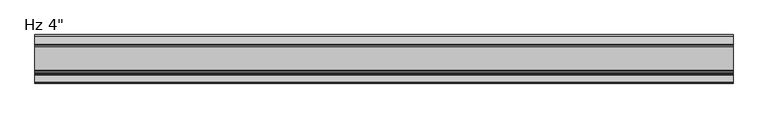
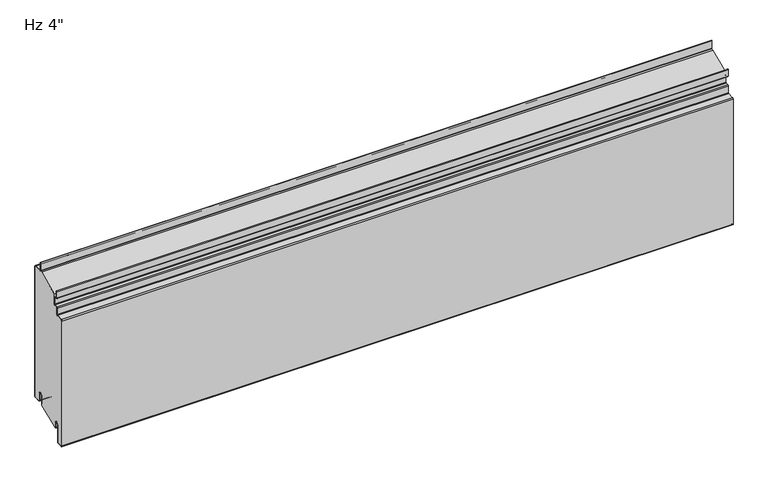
"""IFC4 building model written with IfcOpenShell, lengths in millimetres: plate geometry."""

from ifc_helpers import new_model, si_unit, point, frame, frame_2d, origin, place, context, project, spatial, polyline, circle_curve, ellipse_curve, trimmed, segment, composite_curve, outline, extrude, source, transform, mapped, element, save
from ifc_brep_helpers import plane_surface, cylinder_surface, revolved_surface, extruded_surface, advanced_brep


def plate_7649aaa1(model_context):
    return source(origin(), model_context, "Body", "SolidModel", [
        extrude(outline(composite_curve([segment(trimmed(circle_curve(frame_2d((-21.43125, 19.05)), 4.96875), [point((-16.4625, 19.05))], [point((-26.4, 19.05))], True, "CARTESIAN"), True, "CONTINUOUS"), segment(polyline([(-26.4, 19.05), (-26.4, -3.1323422), (-74.6157227, -23.01875), (-76.2, -23.01875), (-76.2, -13.5080174), (-76.99375, -13.5080174), (-76.7875, -11.9205174)]), True, "CONTINUOUS"), segment(trimmed(circle_curve(frame_2d((-81.75625, -11.9205174)), 4.96875), [point((-76.7875, -11.9205174))], [point((-86.725, -11.9205174))], True, "CARTESIAN"), True, "CONTINUOUS"), segment(polyline([(-86.725, -11.9205174), (-86.725, -50.1038221)]), True, "CONTINUOUS"), segment(trimmed(circle_curve(frame_2d((-88.10625, -50.1038221)), 1.38125), [point((-86.725, -50.1038221))], [point((-88.033961, -51.4831791))], False, "CARTESIAN"), True, "CONTINUOUS"), segment(polyline([(-88.033961, -51.4831791), (-99.146461, -52.0655606)]), True, "CONTINUOUS"), segment(trimmed(circle_curve(frame_2d((-99.21875, -50.6862035)), 1.38125), [point((-99.146461, -52.0655606))], [point((-100.6, -50.6862035))], False, "CARTESIAN"), True, "CONTINUOUS"), segment(polyline([(-100.6, -50.6862035), (-100.6, 236.6447607)]), True, "CONTINUOUS"), segment(trimmed(circle_curve(frame_2d((-99.21875, 236.6447607)), 1.38125), [point((-100.6, 236.6447607))], [point((-99.291039, 238.0241177))], False, "CARTESIAN"), True, "CONTINUOUS"), segment(polyline([(-99.291039, 238.0241177), (-85.5895807, 238.7421807)]), True, "CONTINUOUS"), segment(trimmed(circle_curve(frame_2d((-85.725, 241.3261347)), 2.5875), [point((-85.5895807, 238.7421807))], [point((-83.1375, 241.3261347))], True, "CARTESIAN"), True, "CONTINUOUS"), segment(polyline([(-83.1375, 241.3261347), (-83.1375, 255.4824411)]), True, "CONTINUOUS"), segment(trimmed(circle_curve(frame_2d((-81.75625, 255.4824411)), 1.38125), [point((-83.1375, 255.4824411))], [point((-81.828539, 256.8617981))], False, "CARTESIAN"), True, "CONTINUOUS"), segment(polyline([(-81.828539, 256.8617981), (-76.0645807, 257.1638744)]), True, "CONTINUOUS"), segment(trimmed(circle_curve(frame_2d((-76.2, 259.7478283)), 2.5875), [point((-76.0645807, 257.1638744))], [point((-73.6125, 259.7478283))], True, "CARTESIAN"), True, "CONTINUOUS"), segment(polyline([(-73.6125, 259.7478283), (-73.6125, 282.1892934), (-24.9057308, 303.00625), (-2.38125, 303.00625)]), True, "CONTINUOUS"), segment(trimmed(circle_curve(frame_2d((-2.38125, 301.625)), 1.38125), [point((-2.38125, 303.00625))], [point((-1.0, 301.625))], False, "CARTESIAN"), True, "CONTINUOUS"), segment(polyline([(-1.0, 301.625), (-1.0, 3.175)]), True, "CONTINUOUS"), segment(trimmed(circle_curve(frame_2d((-2.38125, 3.175)), 1.38125), [point((-1.0, 3.175))], [point((-2.38125, 1.79375))], False, "CARTESIAN"), True, "CONTINUOUS"), segment(polyline([(-2.38125, 1.79375), (-15.08125, 1.79375)]), True, "CONTINUOUS"), segment(trimmed(circle_curve(frame_2d((-15.08125, 3.175)), 1.38125), [point((-15.08125, 1.79375))], [point((-16.4625, 3.175))], False, "CARTESIAN"), True, "CONTINUOUS"), segment(polyline([(-16.4625, 3.175), (-16.4625, 19.05)]), True, "CONTINUOUS")], self_intersect=False)), frame((-730.0, 0.0, 0.0), z_axis=(1.0, 0.0, 0.0), x_axis=(0.0, 1.0, 0.0)), (0.0, 0.0, 1.0), 1460.0),
        extrude(outline(composite_curve([segment(polyline([(-25.4, 0.79375), (-26.4, 0.79375), (-26.4, 19.05)]), True, "CONTINUOUS"), segment(trimmed(circle_curve(frame_2d((-21.43125, 19.05)), 4.96875), [point((-26.4, 19.05))], [point((-16.4625, 19.05))], False, "CARTESIAN"), True, "CONTINUOUS"), segment(polyline([(-16.4625, 19.05), (-16.4625, 3.175)]), True, "CONTINUOUS"), segment(trimmed(circle_curve(frame_2d((-15.08125, 3.175)), 1.38125), [point((-16.4625, 3.175))], [point((-15.08125, 1.79375))], True, "CARTESIAN"), True, "CONTINUOUS"), segment(polyline([(-15.08125, 1.79375), (-2.38125, 1.79375)]), True, "CONTINUOUS"), segment(trimmed(circle_curve(frame_2d((-2.38125, 3.175)), 1.38125), [point((-2.38125, 1.79375))], [point((-1.0, 3.175))], True, "CARTESIAN"), True, "CONTINUOUS"), segment(polyline([(-1.0, 3.175), (-1.0, 301.625)]), True, "CONTINUOUS"), segment(trimmed(circle_curve(frame_2d((-2.38125, 301.625)), 1.38125), [point((-1.0, 301.625))], [point((-2.38125, 303.00625))], True, "CARTESIAN"), True, "CONTINUOUS"), segment(polyline([(-2.38125, 303.00625), (-19.446875, 303.00625)]), True, "CONTINUOUS"), segment(trimmed(circle_curve(frame_2d((-19.446875, 305.59375)), 2.5875), [point((-19.446875, 303.00625))], [point((-22.034375, 305.59375))], False, "CARTESIAN"), True, "CONTINUOUS"), segment(polyline([(-22.034375, 305.59375), (-22.034375, 323.05625), (-21.034375, 323.05625), (-21.034375, 305.59375)]), True, "CONTINUOUS"), segment(trimmed(circle_curve(frame_2d((-19.446875, 305.59375)), 1.5875), [point((-21.034375, 305.59375))], [point((-19.446875, 304.00625))], True, "CARTESIAN"), True, "CONTINUOUS"), segment(polyline([(-19.446875, 304.00625), (-2.38125, 304.00625)]), True, "CONTINUOUS"), segment(trimmed(circle_curve(frame_2d((-2.38125, 301.625)), 2.38125), [point((-2.38125, 304.00625))], [point((0.0, 301.625))], False, "CARTESIAN"), True, "CONTINUOUS"), segment(polyline([(0.0, 301.625), (0.0, 3.175)]), True, "CONTINUOUS"), segment(trimmed(circle_curve(frame_2d((-2.38125, 3.175)), 2.38125), [point((0.0, 3.175))], [point((-2.38125, 0.79375))], False, "CARTESIAN"), True, "CONTINUOUS"), segment(polyline([(-2.38125, 0.79375), (-15.08125, 0.79375)]), True, "CONTINUOUS"), segment(trimmed(circle_curve(frame_2d((-15.08125, 3.175)), 2.38125), [point((-15.08125, 0.79375))], [point((-17.4625, 3.175))], False, "CARTESIAN"), True, "CONTINUOUS"), segment(polyline([(-17.4625, 3.175), (-17.4625, 19.05)]), True, "CONTINUOUS"), segment(trimmed(circle_curve(frame_2d((-21.43125, 19.05)), 3.96875), [point((-17.4625, 19.05))], [point((-25.4, 19.05))], True, "CARTESIAN"), True, "CONTINUOUS"), segment(polyline([(-25.4, 19.05), (-25.4, 0.79375)]), True, "CONTINUOUS")], self_intersect=False)), frame((-730.0, 0.0, 0.0), z_axis=(1.0, 0.0, 0.0), x_axis=(0.0, 1.0, 0.0)), (0.0, 0.0, 1.0), 1460.0),
        advanced_brep(
        [(-730.0, -76.2, -23.2314549), (-730.0, -77.7875, -23.2314549), (-730.0, -77.7875, -11.9205174), (-730.0, -85.725, -11.9205174), (-730.0, -85.725, -50.1038221), (-730.0, -87.981625, -52.4818086), (-730.0, -99.094125, -53.0641901), (-730.0, -101.6, -50.6862035), (-730.0, -101.6, 236.6447607), (-730.0, -99.343375, 239.0227473), (-730.0, -85.6419167, 239.7408103), (-730.0, -84.1375, 241.3261347), (-730.0, -84.1375, 255.4824411), (-730.0, -81.880875, 257.8604276), (-730.0, -76.1169167, 258.1625039), (-730.0, -74.6125, 259.7478283), (-730.0, -74.6125, 274.6232326), (-730.0, -76.2, 276.2107326), (-730.0, -80.3671875, 276.2107326), (-730.0, -82.7484375, 278.5919826), (-730.0, -82.7484375, 293.0836032), (-730.0, -80.9546875, 293.0836032), (-730.0, -80.9546875, 283.3544826), (-730.0, -81.7484375, 283.3544826), (-730.0, -81.7484375, 278.5919826), (-730.0, -80.3671875, 277.2107326), (-730.0, -76.2, 277.2107326), (-730.0, -73.6125, 274.6232326), (-730.0, -73.6125, 259.7478283), (-730.0, -76.0645807, 257.1638744), (-730.0, -81.828539, 256.8617981), (-730.0, -83.1375, 255.4824411), (-730.0, -83.1375, 241.3261347), (-730.0, -85.5895807, 238.7421807), (-730.0, -99.291039, 238.0241177), (-730.0, -100.6, 236.6447607), (-730.0, -100.6, -50.6862035), (-730.0, -99.146461, -52.0655606), (-730.0, -88.033961, -51.4831791), (-730.0, -86.725, -50.1038221), (-730.0, -86.725, -11.9205174), (-730.0, -76.7875, -11.9205174), (-730.0, -76.99375, -13.5080174), (-730.0, -76.2, -13.5080174), (730.0, -76.2, -23.2314549), (730.0, -76.2, -13.5080174), (730.0, -76.99375, -13.5080174), (730.0, -76.7875, -11.9205174), (730.0, -86.725, -11.9205174), (730.0, -86.725, -50.1038221), (730.0, -88.033961, -51.4831791), (730.0, -99.146461, -52.0655606), (730.0, -100.6, -50.6862035), (730.0, -100.6, 236.6447607), (730.0, -99.291039, 238.0241177), (730.0, -85.5895807, 238.7421807), (730.0, -83.1375, 241.3261347), (730.0, -83.1375, 255.4824411), (730.0, -81.828539, 256.8617981), (730.0, -76.0645807, 257.1638744), (730.0, -73.6125, 259.7478283), (730.0, -73.6125, 274.6232326), (730.0, -76.2, 277.2107326), (730.0, -80.3671875, 277.2107326), (730.0, -81.7484375, 278.5919826), (730.0, -81.7484375, 283.3544826), (730.0, -80.9546875, 283.3544826), (730.0, -80.9546875, 293.0836032), (730.0, -82.7484375, 293.0836032), (730.0, -82.7484375, 278.5919826), (730.0, -80.3671875, 276.2107326), (730.0, -76.2, 276.2107326), (730.0, -74.6125, 274.6232326), (730.0, -74.6125, 259.7478283), (730.0, -76.1169167, 258.1625039), (730.0, -81.880875, 257.8604276), (730.0, -84.1375, 255.4824411), (730.0, -84.1375, 241.3261347), (730.0, -85.6419167, 239.7408103), (730.0, -99.343375, 239.0227473), (730.0, -101.6, 236.6447607), (730.0, -101.6, -50.6862035), (730.0, -99.094125, -53.0641901), (730.0, -87.981625, -52.4818086), (730.0, -85.725, -50.1038221), (730.0, -85.725, -11.9205174), (730.0, -77.7875, -11.9205174), (730.0, -77.7875, -23.2314549)],
        [
            (0, 1, circle_curve(frame((-730.0, -76.99375, -23.2314549), z_axis=(-1.0, 0.0, 0.0), x_axis=(0.0, 0.0, -1.0)), 0.79375)),
            (1, 2),
            (2, 3, circle_curve(frame((-730.0, -81.75625, -11.9205174), z_axis=(1.0, 0.0, 0.0), x_axis=(0.0, 0.0, -1.0)), 3.96875)),
            (3, 4),
            (4, 5, circle_curve(frame((-730.0, -88.10625, -50.1038221), z_axis=(-1.0, 0.0, 0.0), x_axis=(0.0, 0.0, -1.0)), 2.38125)),
            (5, 6),
            (6, 7, circle_curve(frame((-730.0, -99.21875, -50.6862035), z_axis=(-1.0, 0.0, 0.0), x_axis=(0.0, 0.0, -1.0)), 2.38125)),
            (7, 8),
            (8, 9, circle_curve(frame((-730.0, -99.21875, 236.6447607), z_axis=(-1.0, 0.0, 0.0), x_axis=(0.0, 0.0, -1.0)), 2.38125)),
            (9, 10),
            (10, 11, circle_curve(frame((-730.0, -85.725, 241.3261347), z_axis=(1.0, 0.0, 0.0), x_axis=(0.0, 0.0, -1.0)), 1.5875)),
            (11, 12),
            (12, 13, circle_curve(frame((-730.0, -81.75625, 255.4824411), z_axis=(-1.0, 0.0, 0.0), x_axis=(0.0, 0.0, -1.0)), 2.38125)),
            (13, 14),
            (14, 15, circle_curve(frame((-730.0, -76.2, 259.7478283), z_axis=(1.0, 0.0, 0.0), x_axis=(0.0, 0.0, -1.0)), 1.5875)),
            (15, 16),
            (16, 17, circle_curve(frame((-730.0, -76.2, 274.6232326), z_axis=(1.0, 0.0, 0.0), x_axis=(0.0, 0.0, -1.0)), 1.5875)),
            (17, 18),
            (18, 19, circle_curve(frame((-730.0, -80.3671875, 278.5919826), z_axis=(-1.0, 0.0, 0.0), x_axis=(0.0, 0.0, -1.0)), 2.38125)),
            (19, 20),
            (20, 21, ellipse_curve(frame((-730.0, -81.8515625, 293.0836032), z_axis=(-1.0, 0.0, 0.0), x_axis=(0.0, 1.0, 0.0)), 0.896875, 0.7852275)),
            (21, 22),
            (22, 23),
            (23, 24),
            (24, 25, circle_curve(frame((-730.0, -80.3671875, 278.5919826), z_axis=(1.0, 0.0, 0.0), x_axis=(0.0, 0.0, -1.0)), 1.38125)),
            (25, 26),
            (26, 27, circle_curve(frame((-730.0, -76.2, 274.6232326), z_axis=(-1.0, 0.0, 0.0), x_axis=(0.0, 0.0, -1.0)), 2.5875)),
            (27, 28),
            (28, 29, circle_curve(frame((-730.0, -76.2, 259.7478283), z_axis=(-1.0, 0.0, 0.0), x_axis=(0.0, 0.0, -1.0)), 2.5875)),
            (29, 30),
            (30, 31, circle_curve(frame((-730.0, -81.75625, 255.4824411), z_axis=(1.0, 0.0, 0.0), x_axis=(0.0, 0.0, -1.0)), 1.38125)),
            (31, 32),
            (32, 33, circle_curve(frame((-730.0, -85.725, 241.3261347), z_axis=(-1.0, 0.0, 0.0), x_axis=(0.0, 0.0, -1.0)), 2.5875)),
            (33, 34),
            (34, 35, circle_curve(frame((-730.0, -99.21875, 236.6447607), z_axis=(1.0, 0.0, 0.0), x_axis=(0.0, 0.0, -1.0)), 1.38125)),
            (35, 36),
            (36, 37, circle_curve(frame((-730.0, -99.21875, -50.6862035), z_axis=(1.0, 0.0, 0.0), x_axis=(0.0, 0.0, -1.0)), 1.38125)),
            (37, 38),
            (38, 39, circle_curve(frame((-730.0, -88.10625, -50.1038221), z_axis=(1.0, 0.0, 0.0), x_axis=(0.0, 0.0, -1.0)), 1.38125)),
            (39, 40),
            (40, 41, circle_curve(frame((-730.0, -81.75625, -11.9205174), z_axis=(-1.0, 0.0, 0.0), x_axis=(0.0, 0.0, -1.0)), 4.96875)),
            (41, 42),
            (42, 43),
            (43, 0),
            (44, 45),
            (45, 46),
            (46, 47),
            (47, 48, circle_curve(frame((730.0, -81.75625, -11.9205174), z_axis=(1.0, 0.0, 0.0), x_axis=(0.0, 0.0, -1.0)), 4.96875)),
            (48, 49),
            (49, 50, circle_curve(frame((730.0, -88.10625, -50.1038221), z_axis=(-1.0, 0.0, 0.0), x_axis=(0.0, 0.0, -1.0)), 1.38125)),
            (50, 51),
            (51, 52, circle_curve(frame((730.0, -99.21875, -50.6862035), z_axis=(-1.0, 0.0, 0.0), x_axis=(0.0, 0.0, -1.0)), 1.38125)),
            (52, 53),
            (53, 54, circle_curve(frame((730.0, -99.21875, 236.6447607), z_axis=(-1.0, 0.0, 0.0), x_axis=(0.0, 0.0, -1.0)), 1.38125)),
            (54, 55),
            (55, 56, circle_curve(frame((730.0, -85.725, 241.3261347), z_axis=(1.0, 0.0, 0.0), x_axis=(0.0, 0.0, -1.0)), 2.5875)),
            (56, 57),
            (57, 58, circle_curve(frame((730.0, -81.75625, 255.4824411), z_axis=(-1.0, 0.0, 0.0), x_axis=(0.0, 0.0, -1.0)), 1.38125)),
            (58, 59),
            (59, 60, circle_curve(frame((730.0, -76.2, 259.7478283), z_axis=(1.0, 0.0, 0.0), x_axis=(0.0, 0.0, -1.0)), 2.5875)),
            (60, 61),
            (61, 62, circle_curve(frame((730.0, -76.2, 274.6232326), z_axis=(1.0, 0.0, 0.0), x_axis=(0.0, 0.0, -1.0)), 2.5875)),
            (62, 63),
            (63, 64, circle_curve(frame((730.0, -80.3671875, 278.5919826), z_axis=(-1.0, 0.0, 0.0), x_axis=(0.0, 0.0, -1.0)), 1.38125)),
            (64, 65),
            (65, 66),
            (66, 67),
            (67, 68, ellipse_curve(frame((730.0, -81.8515625, 293.0836032), z_axis=(1.0, 0.0, 0.0), x_axis=(0.0, 1.0, 0.0)), 0.896875, 0.7852275)),
            (68, 69),
            (69, 70, circle_curve(frame((730.0, -80.3671875, 278.5919826), z_axis=(1.0, 0.0, 0.0), x_axis=(0.0, 0.0, -1.0)), 2.38125)),
            (70, 71),
            (71, 72, circle_curve(frame((730.0, -76.2, 274.6232326), z_axis=(-1.0, 0.0, 0.0), x_axis=(0.0, 0.0, -1.0)), 1.5875)),
            (72, 73),
            (73, 74, circle_curve(frame((730.0, -76.2, 259.7478283), z_axis=(-1.0, 0.0, 0.0), x_axis=(0.0, 0.0, -1.0)), 1.5875)),
            (74, 75),
            (75, 76, circle_curve(frame((730.0, -81.75625, 255.4824411), z_axis=(1.0, 0.0, 0.0), x_axis=(0.0, 0.0, -1.0)), 2.38125)),
            (76, 77),
            (77, 78, circle_curve(frame((730.0, -85.725, 241.3261347), z_axis=(-1.0, 0.0, 0.0), x_axis=(0.0, 0.0, -1.0)), 1.5875)),
            (78, 79),
            (79, 80, circle_curve(frame((730.0, -99.21875, 236.6447607), z_axis=(1.0, 0.0, 0.0), x_axis=(0.0, 0.0, -1.0)), 2.38125)),
            (80, 81),
            (81, 82, circle_curve(frame((730.0, -99.21875, -50.6862035), z_axis=(1.0, 0.0, 0.0), x_axis=(0.0, 0.0, -1.0)), 2.38125)),
            (82, 83),
            (83, 84, circle_curve(frame((730.0, -88.10625, -50.1038221), z_axis=(1.0, 0.0, 0.0), x_axis=(0.0, 0.0, -1.0)), 2.38125)),
            (84, 85),
            (85, 86, circle_curve(frame((730.0, -81.75625, -11.9205174), z_axis=(-1.0, 0.0, 0.0), x_axis=(0.0, 0.0, -1.0)), 3.96875)),
            (86, 87),
            (87, 44, circle_curve(frame((730.0, -76.99375, -23.2314549), z_axis=(1.0, 0.0, 0.0), x_axis=(0.0, 0.0, -1.0)), 0.79375)),
            (36, 52),
            (51, 37),
            (50, 38),
            (49, 39),
            (48, 40),
            (47, 41),
            (42, 46),
            (45, 43),
            (22, 66),
            (65, 23),
            (21, 67),
            (20, 68),
            (34, 54),
            (53, 35),
            (32, 56),
            (55, 33),
            (30, 58),
            (57, 31),
            (28, 60),
            (59, 29),
            (24, 64),
            (63, 25),
            (26, 62),
            (61, 27),
            (19, 69),
            (17, 71),
            (70, 18),
            (15, 73),
            (72, 16),
            (13, 75),
            (74, 14),
            (11, 77),
            (76, 12),
            (9, 79),
            (78, 10),
            (7, 81),
            (80, 8),
            (5, 83),
            (82, 6),
            (3, 85),
            (84, 4),
            (1, 87),
            (86, 2),
            (44, 0),
        ],
        [
            plane_surface(frame((-730.0, -101.6, 152.4), z_axis=(-1.0, 0.0, 0.0), x_axis=(0.0, -1.0, 0.0))),
            plane_surface(frame((730.0, -101.6, 152.4), z_axis=(1.0, 0.0, 0.0), x_axis=(0.0, -1.0, 0.0))),
            revolved_surface(polyline([(730.0, -99.21875, -52.0674535), (-730.0, -99.21875, -52.0674535)]), (-730.0, -99.21875, -50.6862035), (1.0, 0.0, 0.0)),
            plane_surface(frame((-730.0, -88.033961, -51.4831791), z_axis=(0.0, -0.05233595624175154, 0.9986295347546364), x_axis=(1.0, 0.0, 0.0))),
            revolved_surface(polyline([(730.0, -88.10625, -51.485072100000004), (-730.0, -88.10625, -51.485072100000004)]), (-730.0, -88.10625, -50.1038221), (1.0, 0.0, 0.0)),
            plane_surface(frame((-730.0, -86.725, -11.9205174), z_axis=(0.0, -1.0, 0.0), x_axis=(1.0, 0.0, 0.0))),
            cylinder_surface(frame((-730.0, -81.75625, -11.9205174), z_axis=(-1.0, 0.0, 0.0), x_axis=(0.0, 0.0, -1.0)), 4.96875),
            plane_surface(frame((-730.0, -76.2, -13.5080174), z_axis=(0.0, 0.0, 1.0), x_axis=(1.0, 0.0, 0.0))),
            plane_surface(frame((-730.0, -76.99375, -13.5080174), z_axis=(0.0, 0.9916655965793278, -0.12883844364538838), x_axis=(1.0, 0.0, 0.0))),
            plane_surface(frame((-730.0, -81.7484375, 283.3544826), z_axis=(0.0, 0.0, -1.0), x_axis=(1.0, 0.0, 0.0))),
            plane_surface(frame((-730.0, -80.9546875, 283.3544826), z_axis=(0.0, 1.0, 0.0), x_axis=(1.0, 0.0, 0.0))),
            extruded_surface(trimmed(ellipse_curve(frame((-730.0, -81.8515625, 293.0836032), z_axis=(1.0, 0.0, 0.0), x_axis=(0.0, 1.0, 0.0)), 0.896875, 0.7852275), [point((-730.0, -80.9546875, 293.0836032))], [point((-730.0, -82.7484375, 293.0836032))], True, "CARTESIAN"), (1460.0, 0.0, 0.0), 1460.0),
            revolved_surface(polyline([(730.0, -99.21875, 235.2635107), (-730.0, -99.21875, 235.2635107)]), (-730.0, -99.21875, 236.6447607), (1.0, 0.0, 0.0)),
            cylinder_surface(frame((-730.0, -85.725, 241.3261347), z_axis=(-1.0, 0.0, 0.0), x_axis=(0.0, 0.0, -1.0)), 2.5875),
            plane_surface(frame((-730.0, -99.291039, 238.0241177), z_axis=(0.0, 0.05233595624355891, -0.9986295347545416), x_axis=(1.0, 0.0, 0.0))),
            plane_surface(frame((-730.0, -100.6, -50.6862035), z_axis=(0.0, 1.0, 0.0), x_axis=(1.0, 0.0, 0.0))),
            revolved_surface(polyline([(730.0, -81.75625, 254.1011911), (-730.0, -81.75625, 254.1011911)]), (-730.0, -81.75625, 255.4824411), (1.0, 0.0, 0.0)),
            cylinder_surface(frame((-730.0, -76.2, 259.7478283), z_axis=(-1.0, 0.0, 0.0), x_axis=(0.0, 0.0, -1.0)), 2.5875),
            plane_surface(frame((-730.0, -81.828539, 256.8617981), z_axis=(0.0, 0.052335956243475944, -0.9986295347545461), x_axis=(1.0, 0.0, 0.0))),
            plane_surface(frame((-730.0, -83.1375, 241.3261347), z_axis=(0.0, 1.0, 0.0), x_axis=(1.0, 0.0, 0.0))),
            revolved_surface(polyline([(730.0, -80.3671875, 277.2107326), (-730.0, -80.3671875, 277.2107326)]), (-730.0, -80.3671875, 278.5919826), (1.0, 0.0, 0.0)),
            cylinder_surface(frame((-730.0, -76.2, 274.6232326), z_axis=(-1.0, 0.0, 0.0), x_axis=(0.0, 0.0, -1.0)), 2.5875),
            plane_surface(frame((-730.0, -76.2, 277.2107326), z_axis=(0.0, 0.0, 1.0), x_axis=(1.0, 0.0, 0.0))),
            plane_surface(frame((-730.0, -81.7484375, 278.5919826), z_axis=(0.0, 1.0, 0.0), x_axis=(1.0, 0.0, 0.0))),
            plane_surface(frame((-730.0, -82.7484375, 293.0836032), z_axis=(0.0, -1.0, 0.0), x_axis=(1.0, 0.0, 0.0))),
            plane_surface(frame((-730.0, -80.3671875, 276.2107326), z_axis=(0.0, 0.0, -1.0), x_axis=(1.0, 0.0, 0.0))),
            cylinder_surface(frame((-730.0, -80.3671875, 278.5919826), z_axis=(-1.0, 0.0, 0.0), x_axis=(0.0, 0.0, -1.0)), 2.38125),
            plane_surface(frame((-730.0, -73.6125, 259.7478283), z_axis=(0.0, 1.0, 0.0), x_axis=(1.0, 0.0, 0.0))),
            plane_surface(frame((-730.0, -74.6125, 274.6232326), z_axis=(0.0, -1.0, 0.0), x_axis=(1.0, 0.0, 0.0))),
            plane_surface(frame((-730.0, -76.1169167, 258.1625039), z_axis=(0.0, -0.05233595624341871, 0.9986295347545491), x_axis=(1.0, 0.0, 0.0))),
            revolved_surface(polyline([(730.0, -76.2, 258.1603283), (-730.0, -76.2, 258.1603283)]), (-730.0, -76.2, 259.7478283), (1.0, 0.0, 0.0)),
            revolved_surface(polyline([(730.0, -76.2, 273.0357326), (-730.0, -76.2, 273.0357326)]), (-730.0, -76.2, 274.6232326), (1.0, 0.0, 0.0)),
            plane_surface(frame((-730.0, -84.1375, 255.4824411), z_axis=(0.0, -1.0, 0.0), x_axis=(1.0, 0.0, 0.0))),
            plane_surface(frame((-730.0, -85.6419167, 239.7408103), z_axis=(0.0, -0.05233595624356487, 0.9986295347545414), x_axis=(1.0, 0.0, 0.0))),
            revolved_surface(polyline([(730.0, -85.725, 239.7386347), (-730.0, -85.725, 239.7386347)]), (-730.0, -85.725, 241.3261347), (1.0, 0.0, 0.0)),
            cylinder_surface(frame((-730.0, -81.75625, 255.4824411), z_axis=(-1.0, 0.0, 0.0), x_axis=(0.0, 0.0, -1.0)), 2.38125),
            plane_surface(frame((-730.0, -101.6, 236.6447607), z_axis=(0.0, -1.0, 0.0), x_axis=(1.0, 0.0, 0.0))),
            plane_surface(frame((-730.0, -99.094125, -53.0641901), z_axis=(0.0, 0.05233595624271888, -0.9986295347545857), x_axis=(1.0, 0.0, 0.0))),
            cylinder_surface(frame((-730.0, -99.21875, -50.6862035), z_axis=(-1.0, 0.0, 0.0), x_axis=(0.0, 0.0, -1.0)), 2.38125),
            cylinder_surface(frame((-730.0, -99.21875, 236.6447607), z_axis=(-1.0, 0.0, 0.0), x_axis=(0.0, 0.0, -1.0)), 2.38125),
            plane_surface(frame((-730.0, -85.725, -50.1038221), z_axis=(0.0, 1.0, 0.0), x_axis=(1.0, 0.0, 0.0))),
            plane_surface(frame((-730.0, -77.7875, -11.9205174), z_axis=(0.0, -1.0, 0.0), x_axis=(1.0, 0.0, 0.0))),
            revolved_surface(polyline([(730.0, -81.75625, -15.8892674), (-730.0, -81.75625, -15.8892674)]), (-730.0, -81.75625, -11.9205174), (1.0, 0.0, 0.0)),
            cylinder_surface(frame((-730.0, -88.10625, -50.1038221), z_axis=(-1.0, 0.0, 0.0), x_axis=(0.0, 0.0, -1.0)), 2.38125),
            plane_surface(frame((-730.0, -76.2, -23.2314549), z_axis=(0.0, 1.0, 0.0), x_axis=(1.0, 0.0, 0.0))),
            cylinder_surface(frame((-730.0, -76.99375, -23.2314549), z_axis=(-1.0, 0.0, 0.0), x_axis=(0.0, 0.0, -1.0)), 0.79375),
        ],
        [
            (0, [[1, 2, 3, 4, 5, 6, 7, 8, 9, 10, 11, 12, 13, 14, 15, 16, 17, 18, 19, 20, 21, 22, 23, 24, 25, 26, 27, 28, 29, 30, 31, 32, 33, 34, 35, 36, 37, 38, 39, 40, 41, 42, 43, 44]]),
            (1, [[45, 46, 47, 48, 49, 50, 51, 52, 53, 54, 55, 56, 57, 58, 59, 60, 61, 62, 63, 64, 65, 66, 67, 68, 69, 70, 71, 72, 73, 74, 75, 76, 77, 78, 79, 80, 81, 82, 83, 84, 85, 86, 87, 88]]),
            (2, [[89, -52, 90, -37]]),
            (3, [[-90, -51, 91, -38]]),
            (4, [[-91, -50, 92, -39]]),
            (5, [[-92, -49, 93, -40]]),
            (6, [[-93, -48, 94, -41]]),
            (7, [[95, -46, 96, -43]]),
            (8, [[-94, -47, -95, -42]]),
            (9, [[97, -66, 98, -23]]),
            (10, [[99, -67, -97, -22]]),
            (11, [[100, -68, -99, -21]]),
            (12, [[101, -54, 102, -35]]),
            (13, [[103, -56, 104, -33]]),
            (14, [[-104, -55, -101, -34]]),
            (15, [[-102, -53, -89, -36]]),
            (16, [[105, -58, 106, -31]]),
            (17, [[107, -60, 108, -29]]),
            (18, [[-108, -59, -105, -30]]),
            (19, [[-106, -57, -103, -32]]),
            (20, [[109, -64, 110, -25]]),
            (21, [[111, -62, 112, -27]]),
            (22, [[-110, -63, -111, -26]]),
            (23, [[-98, -65, -109, -24]]),
            (24, [[113, -69, -100, -20]]),
            (25, [[114, -71, 115, -18]]),
            (26, [[-115, -70, -113, -19]]),
            (27, [[-112, -61, -107, -28]]),
            (28, [[116, -73, 117, -16]]),
            (29, [[118, -75, 119, -14]]),
            (30, [[-119, -74, -116, -15]]),
            (31, [[-117, -72, -114, -17]]),
            (32, [[120, -77, 121, -12]]),
            (33, [[122, -79, 123, -10]]),
            (34, [[-123, -78, -120, -11]]),
            (35, [[-121, -76, -118, -13]]),
            (36, [[124, -81, 125, -8]]),
            (37, [[126, -83, 127, -6]]),
            (38, [[-127, -82, -124, -7]]),
            (39, [[-125, -80, -122, -9]]),
            (40, [[128, -85, 129, -4]]),
            (41, [[130, -87, 131, -2]]),
            (42, [[-131, -86, -128, -3]]),
            (43, [[-129, -84, -126, -5]]),
            (44, [[-96, -45, 132, -44]]),
            (45, [[-132, -88, -130, -1]]),
        ],
    ),
    ])


if __name__ == "__main__":
    model = new_model("IFC4")
    model_context = context("Model", 3, world=origin())
    ifc_project = project(units=[si_unit("LENGTHUNIT", "METRE", prefix="MILLI")], contexts=[model_context])
    site = spatial("IfcSite", under=ifc_project)
    building = spatial("IfcBuilding", under=site)
    placement = place(None, origin())
    plate_shape = plate_7649aaa1(model_context)
    element("IfcPlate", 1, ObjectType="KIP-12-DWHR-R19-CP-Hz-F : Hz 4\"", at=placement, inside=building, context=model_context, shape_type="MappedRepresentation", body=[
        mapped(plate_shape, transform((0.0, 0.0, 0.0), x_axis=(1.0, 0.0, 0.0), y_axis=(0.0, 1.0, 0.0), z_axis=(0.0, 0.0, 1.0))),
    ])
    save(model, "model.ifc")
